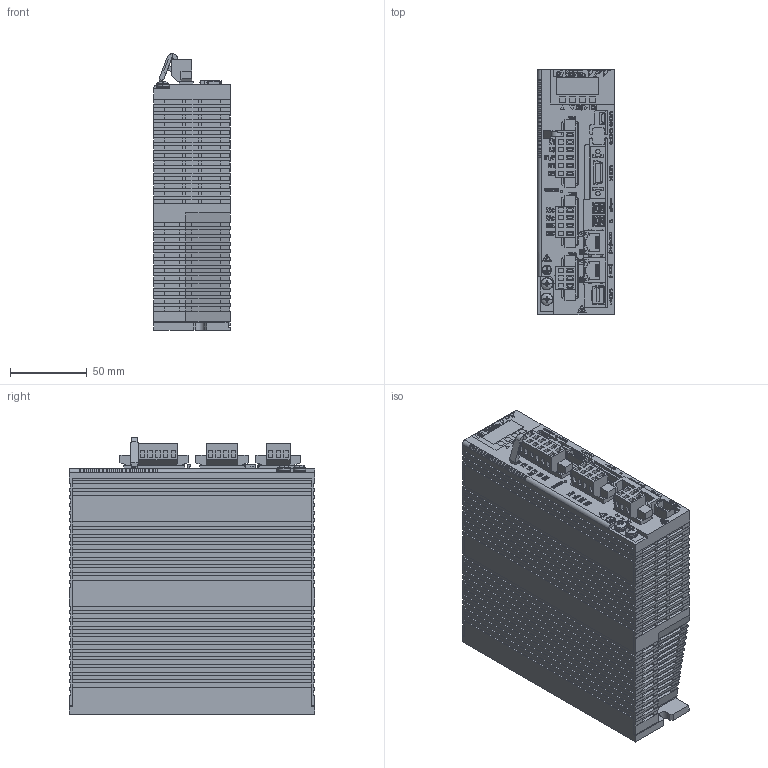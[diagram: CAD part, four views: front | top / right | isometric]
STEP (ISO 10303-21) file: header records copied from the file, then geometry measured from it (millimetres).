
FILE_DESCRIPTION (( 'STEP AP203' ), '1' );
FILE_NAME ('NCR-VD_Series(101-401)#SX-008580-00-01.STEP', '2026-05-28T00:03:45', ( '' ), ( '' ), 'SwSTEP 2.0', 'SolidWorks 2024', '' );
FILE_SCHEMA (( 'CONFIG_CONTROL_DESIGN' ));
Products named in the file (1): NCR-VD_Series(101-401)#SX-008580-00-01
Bounding box: 50 x 160 x 180.32 mm (x, y, z)
Volume: 1232136.9 mm3; surface area: 132168 mm2
Topology: 5 solids, 22 shells, 6754 faces, 19016 edges, 12604 vertices
Faces by surface type: plane 5761, bspline 528, cylinder 433, cone 20, torus 8, sphere 4
Entity records: 237889 total; most frequent: CARTESIAN_POINT 65924, ORIENTED_EDGE 38024, DIRECTION 31298, EDGE_CURVE 19012, LINE 16878, VECTOR 16878, VERTEX_POINT 12604, AXIS2_PLACEMENT_3D 7210
